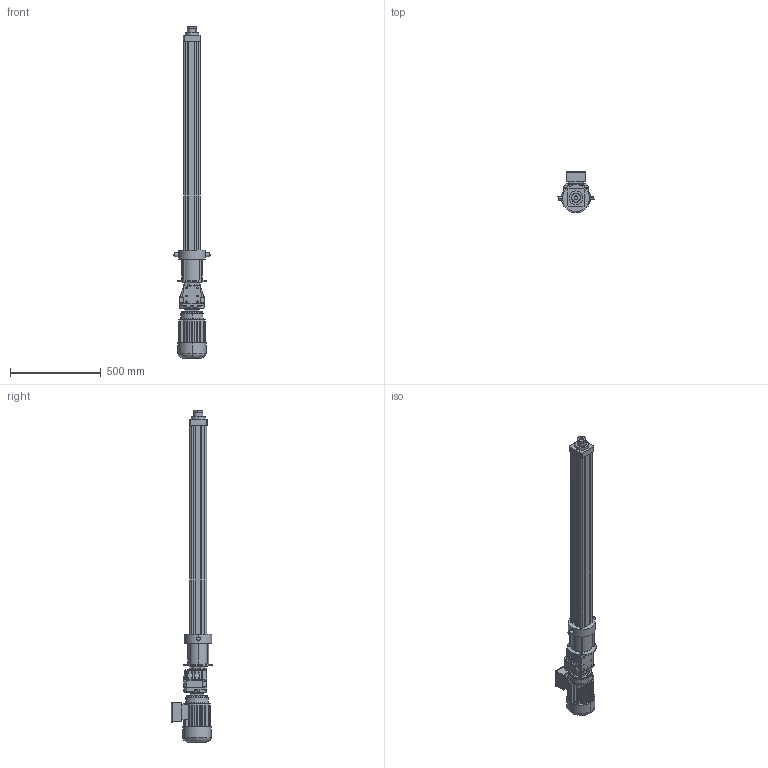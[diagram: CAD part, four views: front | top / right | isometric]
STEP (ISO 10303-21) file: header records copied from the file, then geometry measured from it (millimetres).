
FILE_DESCRIPTION (( 'STEP AP214' ), '1' );
FILE_NAME ('Ass MR80 BI C1000.STEP', '2016-12-25T10:37:08', ( 'Hubert' ), ( '' ), 'SwSTEP 2.0', 'SolidWorks 2014', '' );
FILE_SCHEMA (( 'AUTOMOTIVE_DESIGN' ));
Length unit declared in the file: millimetre
Products named in the file (10): Tube MR 80 BI C1000; PAAV 80 D; Profilé MRRV80 BI C1000; Vis MRRV80 BI C1000; PAAR 80 B160; PAAR 80B160; Ass 402A_F MOT 80 F; _P_402A_-F_6,36_V_3_-R___B3.3d; _AT_80_B_2_1,10_B14_F_230-400-50_DC-S.3d; Ass MR80 BI C1000
Assembly tree (9 placements, depth 3):
  Ass MR80 BI C1000
    Ass 402A_F MOT 80 F
      _AT_80_B_2_1,10_B14_F_230-400-50_DC-S.3d
      _P_402A_-F_6,36_V_3_-R___B3.3d
    PAAR 80 B160
      PAAR 80B160
    Vis MRRV80 BI C1000
    Profilé MRRV80 BI C1000
    PAAV 80 D
    Tube MR 80 BI C1000
Bounding box: 198.33 x 229 x 1828.8 mm (x, y, z)
Volume: 10679510.4 mm3; surface area: 2122751.1 mm2
Topology: 6 solids, 26 shells, 1443 faces, 3631 edges, 2299 vertices
Faces by surface type: plane 787, cylinder 440, cone 112, bspline 104
Entity records: 78633 total; most frequent: CARTESIAN_POINT 30556, ORIENTED_EDGE 7184, DIRECTION 6238, EDGE_CURVE 3593, VERTEX_POINT 2299, VECTOR 2122, LINE 2122, AXIS2_PLACEMENT_3D 2058
